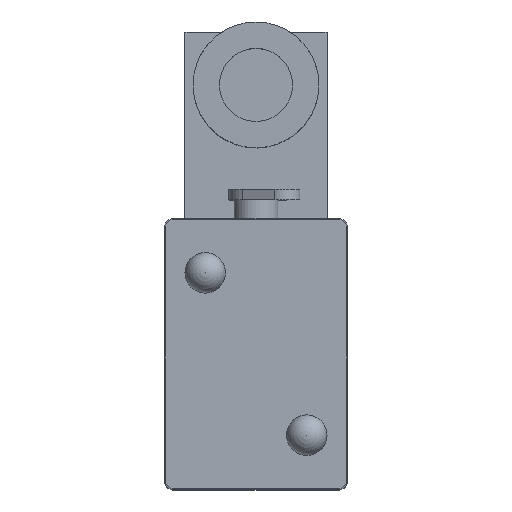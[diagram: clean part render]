
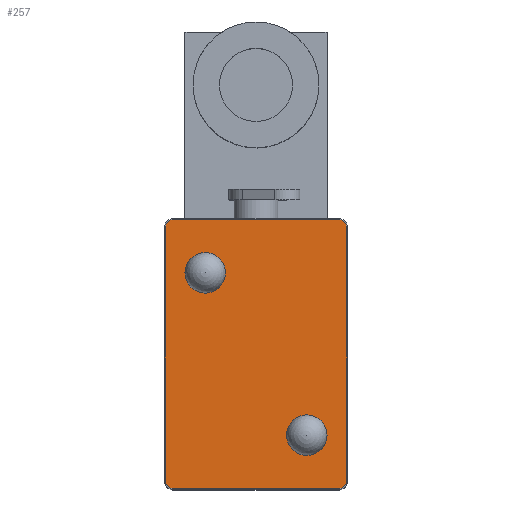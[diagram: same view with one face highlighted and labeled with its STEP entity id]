
A CAD part, top view. The second image highlights one B-rep face of the part: STEP entity #257.
In plain terms, the highlighted planar face has unit normal (0, 0, 1).
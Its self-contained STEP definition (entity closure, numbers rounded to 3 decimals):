
#257 = ADVANCED_FACE( '', ( #573, #574, #575 ), #576, .T. );
#573 = FACE_BOUND( '', #930, .T. );
#574 = FACE_BOUND( '', #931, .T. );
#575 = FACE_OUTER_BOUND( '', #932, .T. );
#576 = PLANE( '', #933 );
#930 = EDGE_LOOP( '', ( #1527 ) );
#931 = EDGE_LOOP( '', ( #1528 ) );
#932 = EDGE_LOOP( '', ( #1529, #1530, #1531, #1532, #1533, #1534, #1535, #1536 ) );
#933 = AXIS2_PLACEMENT_3D( '', #1537, #1538, #1539 );
#1527 = ORIENTED_EDGE( '', *, *, #2060, .T. );
#1528 = ORIENTED_EDGE( '', *, *, #2090, .T. );
#1529 = ORIENTED_EDGE( '', *, *, #2091, .T. );
#1530 = ORIENTED_EDGE( '', *, *, #2062, .T. );
#1531 = ORIENTED_EDGE( '', *, *, #1947, .T. );
#1532 = ORIENTED_EDGE( '', *, *, #2092, .T. );
#1533 = ORIENTED_EDGE( '', *, *, #1881, .T. );
#1534 = ORIENTED_EDGE( '', *, *, #1998, .T. );
#1535 = ORIENTED_EDGE( '', *, *, #2093, .T. );
#1536 = ORIENTED_EDGE( '', *, *, #2034, .T. );
#1537 = CARTESIAN_POINT( '', ( -12.2, 18.7, 11.6 ) );
#1538 = DIRECTION( '', ( 0., 0., 1. ) );
#1539 = DIRECTION( '', ( 1., 0., 0. ) );
#1881 = EDGE_CURVE( '', #2197, #2195, #2198, .T. );
#1947 = EDGE_CURVE( '', #2308, #2306, #2309, .T. );
#1998 = EDGE_CURVE( '', #2195, #2389, #2391, .T. );
#2034 = EDGE_CURVE( '', #2447, #2445, #2448, .T. );
#2060 = EDGE_CURVE( '', #2482, #2482, #2483, .T. );
#2062 = EDGE_CURVE( '', #2485, #2308, #2486, .T. );
#2090 = EDGE_CURVE( '', #2525, #2525, #2526, .T. );
#2091 = EDGE_CURVE( '', #2445, #2485, #2527, .T. );
#2092 = EDGE_CURVE( '', #2306, #2197, #2528, .T. );
#2093 = EDGE_CURVE( '', #2389, #2447, #2529, .T. );
#2195 = VERTEX_POINT( '', #2649 );
#2197 = VERTEX_POINT( '', #2652 );
#2198 = CIRCLE( '', #2653, 1.2 );
#2306 = VERTEX_POINT( '', #2847 );
#2308 = VERTEX_POINT( '', #2850 );
#2309 = CIRCLE( '', #2851, 1.2 );
#2389 = VERTEX_POINT( '', #3021 );
#2391 = LINE( '', #3024, #3025 );
#2445 = VERTEX_POINT( '', #3117 );
#2447 = VERTEX_POINT( '', #3120 );
#2448 = LINE( '', #3121, #3122 );
#2482 = VERTEX_POINT( '', #3165 );
#2483 = CIRCLE( '', #3166, 3. );
#2485 = VERTEX_POINT( '', #3168 );
#2486 = LINE( '', #3169, #3170 );
#2525 = VERTEX_POINT( '', #3220 );
#2526 = CIRCLE( '', #3221, 3. );
#2527 = CIRCLE( '', #3222, 1.2 );
#2528 = LINE( '', #3223, #3224 );
#2529 = CIRCLE( '', #3225, 1.2 );
#2649 = CARTESIAN_POINT( '', ( 13.4, -18.7, 11.6 ) );
#2652 = CARTESIAN_POINT( '', ( 12.2, -19.9, 11.6 ) );
#2653 = AXIS2_PLACEMENT_3D( '', #3355, #3356, #3357 );
#2847 = CARTESIAN_POINT( '', ( -12.2, -19.9, 11.6 ) );
#2850 = CARTESIAN_POINT( '', ( -13.4, -18.7, 11.6 ) );
#2851 = AXIS2_PLACEMENT_3D( '', #3455, #3456, #3457 );
#3021 = CARTESIAN_POINT( '', ( 13.4, 18.7, 11.6 ) );
#3024 = CARTESIAN_POINT( '', ( 13.4, -18.7, 11.6 ) );
#3025 = VECTOR( '', #3523, 1000. );
#3117 = CARTESIAN_POINT( '', ( -12.2, 19.9, 11.6 ) );
#3120 = CARTESIAN_POINT( '', ( 12.2, 19.9, 11.6 ) );
#3121 = CARTESIAN_POINT( '', ( 12.2, 19.9, 11.6 ) );
#3122 = VECTOR( '', #3560, 1000. );
#3165 = CARTESIAN_POINT( '', ( 4.5, -12., 11.6 ) );
#3166 = AXIS2_PLACEMENT_3D( '', #3591, #3592, #3593 );
#3168 = CARTESIAN_POINT( '', ( -13.4, 18.7, 11.6 ) );
#3169 = CARTESIAN_POINT( '', ( -13.4, 18.7, 11.6 ) );
#3170 = VECTOR( '', #3594, 1000. );
#3220 = CARTESIAN_POINT( '', ( -10.5, 12., 11.6 ) );
#3221 = AXIS2_PLACEMENT_3D( '', #3624, #3625, #3626 );
#3222 = AXIS2_PLACEMENT_3D( '', #3627, #3628, #3629 );
#3223 = CARTESIAN_POINT( '', ( -12.2, -19.9, 11.6 ) );
#3224 = VECTOR( '', #3630, 1000. );
#3225 = AXIS2_PLACEMENT_3D( '', #3631, #3632, #3633 );
#3355 = CARTESIAN_POINT( '', ( 12.2, -18.7, 11.6 ) );
#3356 = DIRECTION( '', ( 0., 0., 1. ) );
#3357 = DIRECTION( '', ( 1., 0., 0. ) );
#3455 = CARTESIAN_POINT( '', ( -12.2, -18.7, 11.6 ) );
#3456 = DIRECTION( '', ( 0., 0., 1. ) );
#3457 = DIRECTION( '', ( 1., 0., 0. ) );
#3523 = DIRECTION( '', ( 0., 1., 0. ) );
#3560 = DIRECTION( '', ( -1., 0., 0. ) );
#3591 = CARTESIAN_POINT( '', ( 7.5, -12., 11.6 ) );
#3592 = DIRECTION( '', ( 0., 0., -1. ) );
#3593 = DIRECTION( '', ( -1., 0., 0. ) );
#3594 = DIRECTION( '', ( 0., -1., 0. ) );
#3624 = CARTESIAN_POINT( '', ( -7.5, 12., 11.6 ) );
#3625 = DIRECTION( '', ( 0., 0., -1. ) );
#3626 = DIRECTION( '', ( -1., 0., 0. ) );
#3627 = CARTESIAN_POINT( '', ( -12.2, 18.7, 11.6 ) );
#3628 = DIRECTION( '', ( 0., 0., 1. ) );
#3629 = DIRECTION( '', ( 1., 0., 0. ) );
#3630 = DIRECTION( '', ( 1., 0., 0. ) );
#3631 = CARTESIAN_POINT( '', ( 12.2, 18.7, 11.6 ) );
#3632 = DIRECTION( '', ( 0., 0., 1. ) );
#3633 = DIRECTION( '', ( 1., 0., 0. ) );
